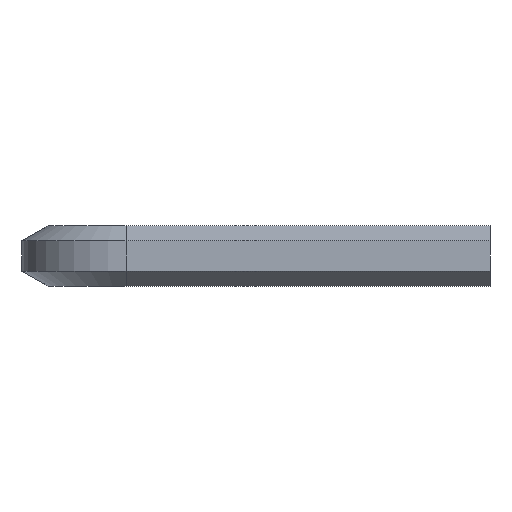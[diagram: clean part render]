
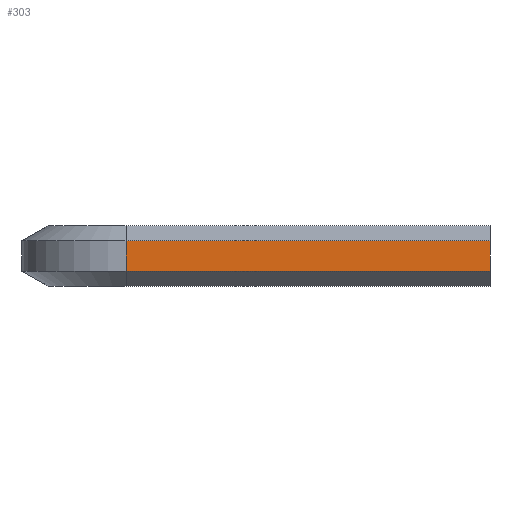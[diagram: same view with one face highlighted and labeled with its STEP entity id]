
A CAD part, left-side view. The second image highlights one B-rep face of the part: STEP entity #303.
In plain terms, the highlighted planar face has unit normal (-1, 0, 0).
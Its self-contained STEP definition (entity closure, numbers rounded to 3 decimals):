
#27=FACE_OUTER_BOUND('',#47,.T.);
#47=EDGE_LOOP('',(#205,#206,#207,#208));
#67=LINE('',#463,#103);
#68=LINE('',#465,#104);
#69=LINE('',#467,#105);
#70=LINE('',#468,#106);
#103=VECTOR('',#373,10.);
#104=VECTOR('',#374,10.);
#105=VECTOR('',#375,10.);
#106=VECTOR('',#376,10.);
#139=VERTEX_POINT('',#461);
#140=VERTEX_POINT('',#462);
#141=VERTEX_POINT('',#464);
#142=VERTEX_POINT('',#466);
#163=EDGE_CURVE('',#139,#140,#67,.T.);
#164=EDGE_CURVE('',#140,#141,#68,.T.);
#165=EDGE_CURVE('',#142,#141,#69,.T.);
#166=EDGE_CURVE('',#139,#142,#70,.T.);
#205=ORIENTED_EDGE('',*,*,#163,.T.);
#206=ORIENTED_EDGE('',*,*,#164,.T.);
#207=ORIENTED_EDGE('',*,*,#165,.F.);
#208=ORIENTED_EDGE('',*,*,#166,.F.);
#289=PLANE('',#343);
#303=ADVANCED_FACE('',(#27),#289,.T.);
#343=AXIS2_PLACEMENT_3D('',#460,#371,#372);
#371=DIRECTION('center_axis',(-1.,0.,0.));
#372=DIRECTION('ref_axis',(0.,0.,-1.));
#373=DIRECTION('',(0.,0.,-1.));
#374=DIRECTION('',(0.,-1.,0.));
#375=DIRECTION('',(0.,0.,-1.));
#376=DIRECTION('',(0.,-1.,0.));
#460=CARTESIAN_POINT('Origin',(0.,14.,0.577));
#461=CARTESIAN_POINT('',(0.,14.,0.577));
#462=CARTESIAN_POINT('',(0.,14.,-0.577));
#463=CARTESIAN_POINT('',(0.,14.,-0.577));
#464=CARTESIAN_POINT('',(0.,0.,-0.577));
#465=CARTESIAN_POINT('',(0.,14.,-0.577));
#466=CARTESIAN_POINT('',(0.,0.,0.577));
#467=CARTESIAN_POINT('',(0.,0.,-0.577));
#468=CARTESIAN_POINT('',(0.,14.,0.577));
